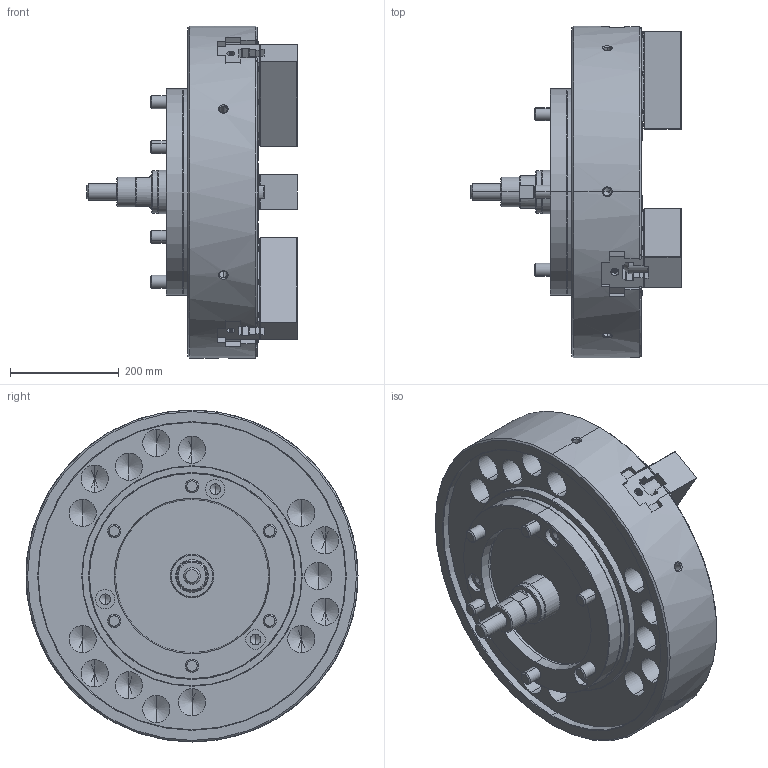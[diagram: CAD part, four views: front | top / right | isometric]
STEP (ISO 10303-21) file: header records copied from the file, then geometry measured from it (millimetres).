
FILE_DESCRIPTION (( 'STEP AP214' ), '1' );
FILE_NAME ('NV24C15_OC.STEP', '2019-12-19T07:27:38', ( '' ), ( '' ), 'SwSTEP 2.0', 'SolidWorks 2017', '' );
FILE_SCHEMA (( 'AUTOMOTIVE_DESIGN' ));
Length unit declared in the file: millimetre
Products named in the file (5): 結合; 0030120060; 61P418538_俿僫僢僩; P32262_ソフトジョー; NV24C15_OC
Assembly tree (16 placements, depth 2):
  NV24C15_OC
    P32262_ソフトジョー  x3
    61P418538_俿僫僢僩  x6
    0030120060  x6
    結合
Bounding box: 387 x 610 x 610 mm (x, y, z)
Volume: 38991007.8 mm3; surface area: 1576085.4 mm2
Topology: 16 solids, 16 shells, 4640 faces, 12795 edges, 8212 vertices
Faces by surface type: plane 3762, cylinder 417, cone 371, torus 84, sphere 6
Entity records: 113933 total; most frequent: CARTESIAN_POINT 22513, ORIENTED_EDGE 19546, DIRECTION 17904, EDGE_CURVE 9773, LINE 8214, VECTOR 8214, VERTEX_POINT 6323, AXIS2_PLACEMENT_3D 4845
